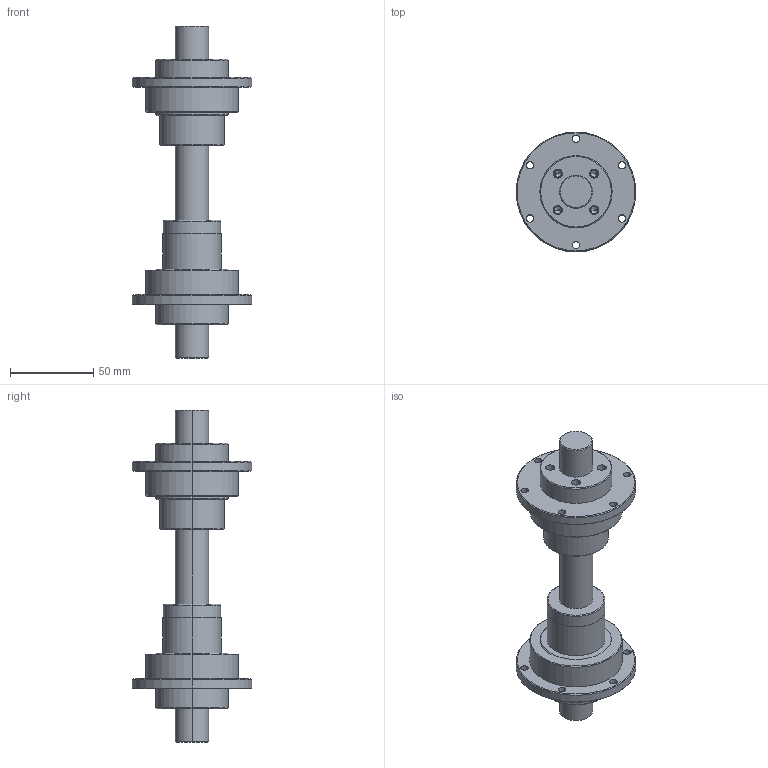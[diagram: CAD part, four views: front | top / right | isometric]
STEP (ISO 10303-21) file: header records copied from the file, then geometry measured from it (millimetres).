
FILE_DESCRIPTION (( 'STEP AP203' ), '1' );
FILE_NAME ('RSSY2020.STEP', '2014-11-13T05:22:13', ( '' ), ( '' ), 'SwSTEP 2.0', 'SolidWorks 2014', '' );
FILE_SCHEMA (( 'CONFIG_CONTROL_DESIGN' ));
Length unit declared in the file: millimetre
Products named in the file (4): SC20; RFSY2020; RLSF20; RSSY2020
Assembly tree (3 placements, depth 2):
  RSSY2020
    SC20
    RFSY2020
    RLSF20
Bounding box: 72 x 72 x 200 mm (x, y, z)
Volume: 232380.2 mm3; surface area: 57170.1 mm2
Topology: 4 solids, 4 shells, 183 faces, 435 edges, 264 vertices
Faces by surface type: cylinder 113, cone 46, plane 22, torus 2
Entity records: 5693 total; most frequent: DIRECTION 1049, CARTESIAN_POINT 868, ORIENTED_EDGE 830, AXIS2_PLACEMENT_3D 445, EDGE_CURVE 415, VERTEX_POINT 264, CIRCLE 256, EDGE_LOOP 237
